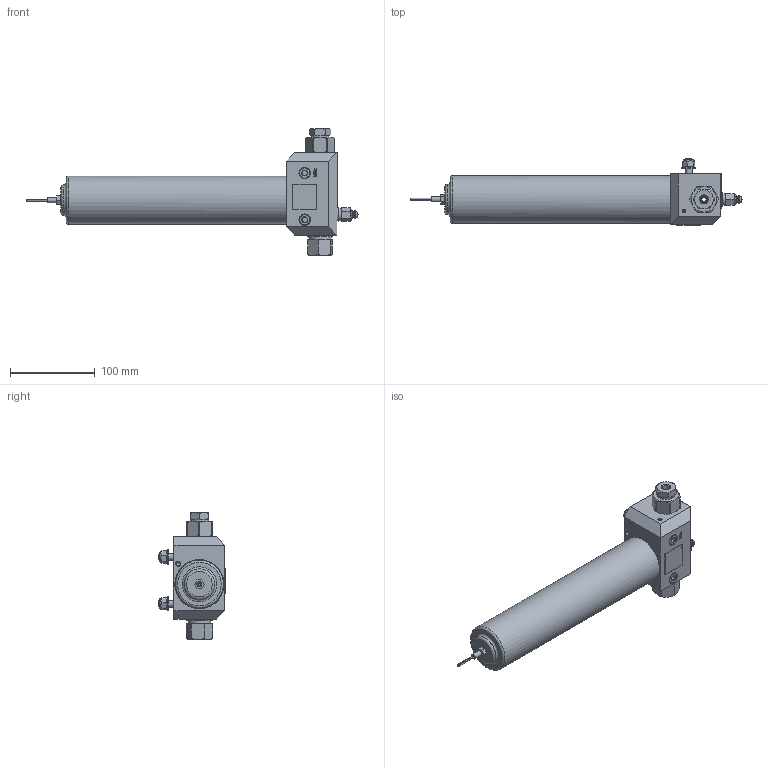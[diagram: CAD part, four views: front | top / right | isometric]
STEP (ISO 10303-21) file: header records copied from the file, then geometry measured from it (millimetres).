
FILE_DESCRIPTION(/* description */ ('Unknown'),/* implementation_level */ '2;1');
FILE_NAME(/* name */ 'MGH-LPLI-KX0000_363125',/* time_stamp */ '2024-12-02T08:42:26+02:00',/* author */ ('Unknown'),/* organization */ ('Unknown'),/* preprocessor_version */ 'ST-DEVELOPER v16.7',/* originating_system */ 'Solid Edge',/* authorisation */ 'Unknown');
FILE_SCHEMA (('AUTOMOTIVE_DESIGN {1 0 10303 214 3 1 1}'));
Length unit declared in the file: millimetre
Products named in the file (1): MGH-LPLI-KX0000_363125
Bounding box: 390.99 x 78.5 x 149.3 mm (x, y, z)
Volume: 350193.3 mm3; surface area: 179878 mm2
Topology: 24 solids, 24 shells, 475 faces, 1023 edges, 646 vertices
Faces by surface type: plane 193, cone 111, cylinder 108, bspline 39, torus 23, sphere 1
Full cylindrical faces by diameter (mm): 1.667 x1, 3 x1, 4.5 x1, 4.917 x1, 5.01 x1, 6 x3, 6.1 x1, 6.2 x1, 6.5 x1, 6.647 x2, 7.8 x1, 7.925 x1, 8 x4, 8.3 x1, 8.4 x2, 8.5 x2, 8.566 x2, 8.7 x1, 8.915 x1, 9.382 x2, 9.728 x1, 10.2 x1, 10.9 x2, 11.445 x1, 11.5 x2, 11.7 x1, 12.5 x2, 13 x2, 13.5 x2, 14 x1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
Entity records: 15802 total; most frequent: CARTESIAN_POINT 5753, DIRECTION 1744, ORIENTED_EDGE 1594, EDGE_CURVE 797, AXIS2_PLACEMENT_3D 748, FACE_BOUND 720, EDGE_LOOP 718, VERTEX_POINT 587
